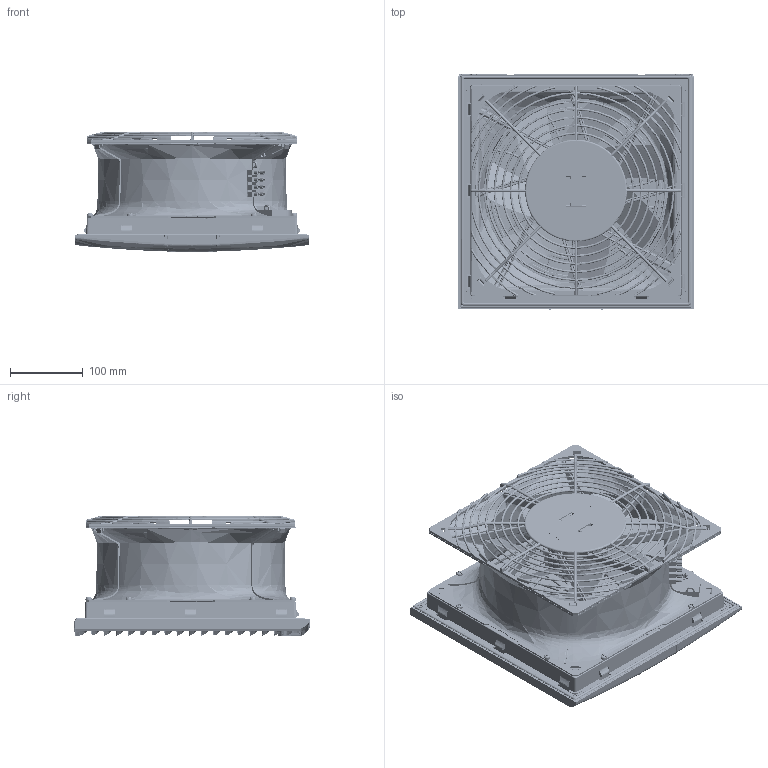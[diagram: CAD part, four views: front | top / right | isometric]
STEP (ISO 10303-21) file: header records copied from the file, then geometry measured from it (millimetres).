
FILE_DESCRIPTION(/* description */ (''),/* implementation_level */ '2;1');
FILE_NAME(/* name */ 'LK3243-3.stp',/* time_stamp */ '2019-05-16T09:00:48+08:00',/* author */ (''),/* organization */ (''),/* preprocessor_version */ 'ST-DEVELOPER v14',/* originating_system */ 'SIEMENS PLM Software NX 8.0',/* authorisation */ '');
FILE_SCHEMA (('AUTOMOTIVE_DESIGN { 1 0 10303 214 3 1 1 1 }'));
Length unit declared in the file: millimetre
Products named in the file (1): Admi170C7B08kld5
Bounding box: 322.5 x 322.91 x 165.04 mm (x, y, z)
Volume: 2322429.2 mm3; surface area: 1351011.5 mm2
Topology: 18 solids, 18 shells, 7328 faces, 21909 edges, 14271 vertices
Faces by surface type: plane 1921, bspline 1840, cylinder 966, cone 892, sphere 862, torus 609, extrusion 219, revolution 19
Full cylindrical faces by diameter (mm): 0.681 x1, 2.4 x4, 3.5 x16, 4 x20, 4.3 x8, 4.5 x23, 4.9 x4, 5.5 x8, 5.6 x2, 8 x1, 8.5 x8, 9 x9, 16 x1, 20 x1, 38 x1, 82 x1, 86 x2, 90 x1
Entity records: 396566 total; most frequent: CARTESIAN_POINT 236670, ORIENTED_EDGE 37584, DIRECTION 23993, EDGE_CURVE 18792, VERTEX_POINT 12396, B_SPLINE_CURVE_WITH_KNOTS 10016, AXIS2_PLACEMENT_3D 9511, EDGE_LOOP 8754
